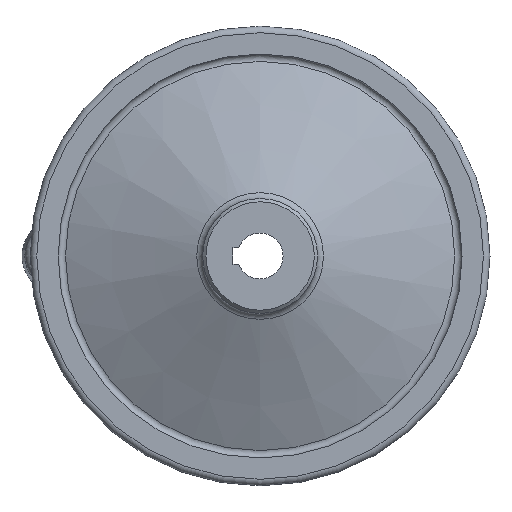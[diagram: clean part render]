
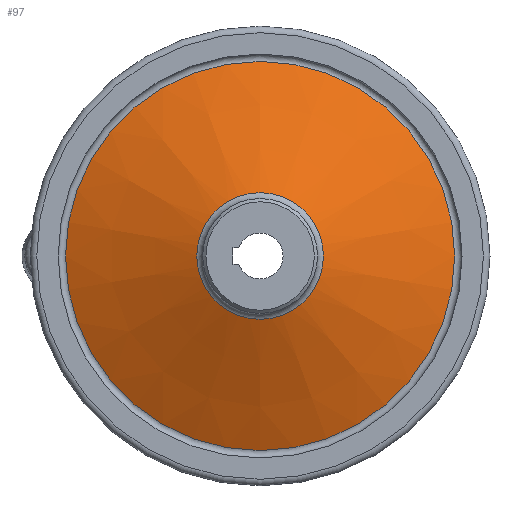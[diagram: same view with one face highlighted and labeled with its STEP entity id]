
A CAD part, left-side view. The second image highlights one B-rep face of the part: STEP entity #97.
In plain terms, the highlighted conical face has half-angle 66 degrees and reference radius 19.28 mm.
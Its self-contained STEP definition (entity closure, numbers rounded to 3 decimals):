
#97 = ADVANCED_FACE( '', ( #170, #171 ), #172, .T. );
#170 = FACE_OUTER_BOUND( '', #260, .T. );
#171 = FACE_BOUND( '', #261, .T. );
#172 = CONICAL_SURFACE( '', #262, 19.28, 1.152 );
#260 = EDGE_LOOP( '', ( #412 ) );
#261 = EDGE_LOOP( '', ( #413 ) );
#262 = AXIS2_PLACEMENT_3D( '', #414, #415, #416 );
#412 = ORIENTED_EDGE( '', *, *, #488, .T. );
#413 = ORIENTED_EDGE( '', *, *, #489, .F. );
#414 = CARTESIAN_POINT( '', ( 10.792, 0., 0. ) );
#415 = DIRECTION( '', ( 1., 0., 0. ) );
#416 = DIRECTION( '', ( 0., 0., -1. ) );
#488 = EDGE_CURVE( '', #552, #552, #553, .T. );
#489 = EDGE_CURVE( '', #554, #554, #555, .T. );
#552 = VERTEX_POINT( '', #634 );
#553 = CIRCLE( '', #635, 59.249 );
#554 = VERTEX_POINT( '', #636 );
#555 = CIRCLE( '', #637, 19.28 );
#634 = CARTESIAN_POINT( '', ( 28.588, 0., 59.249 ) );
#635 = AXIS2_PLACEMENT_3D( '', #720, #721, #722 );
#636 = CARTESIAN_POINT( '', ( 10.792, 0., 19.28 ) );
#637 = AXIS2_PLACEMENT_3D( '', #723, #724, #725 );
#720 = CARTESIAN_POINT( '', ( 28.588, 0., 0. ) );
#721 = DIRECTION( '', ( -1., 0., 0. ) );
#722 = DIRECTION( '', ( 0., 0., 1. ) );
#723 = CARTESIAN_POINT( '', ( 10.792, 0., 0. ) );
#724 = DIRECTION( '', ( -1., 0., 0. ) );
#725 = DIRECTION( '', ( 0., 0., 1. ) );
